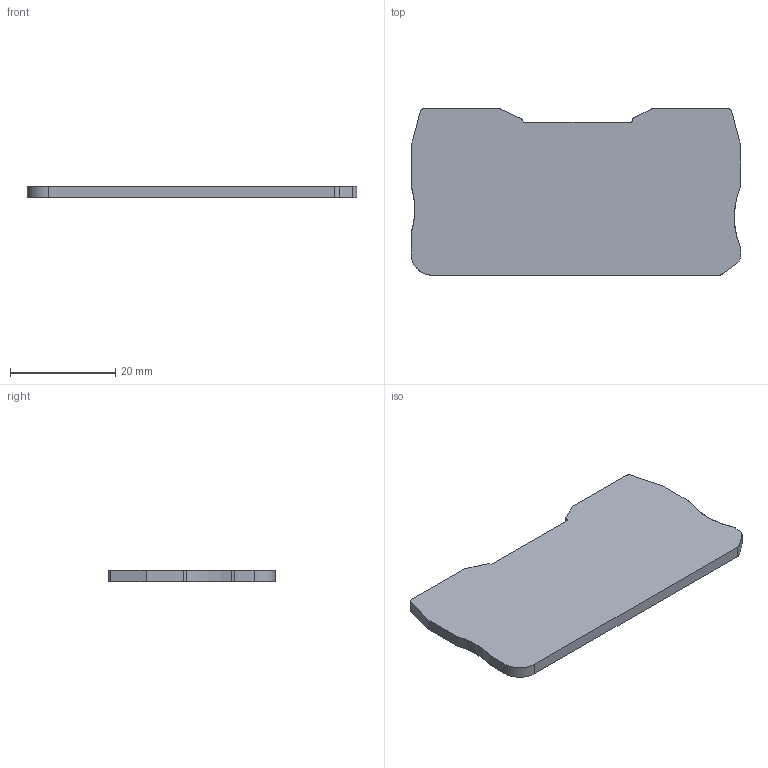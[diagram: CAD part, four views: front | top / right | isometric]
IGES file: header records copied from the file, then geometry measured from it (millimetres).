
Global section: file name: 3206568_d_qtc25-select.igs; native system: OneSpace Designer 3D IGES; preprocessor: 12.01C  26-Mar-2004; date: 20041015.140523; units: millimetre
Bounding box: 62.6 x 31.55 x 2.2 mm (x, y, z)
Surface area: 4165.4 mm2 (no closed solid volume)
Topology: 0 solids, 0 shells, 35 faces, 264 edges, 264 vertices
Faces by surface type: bspline 35
